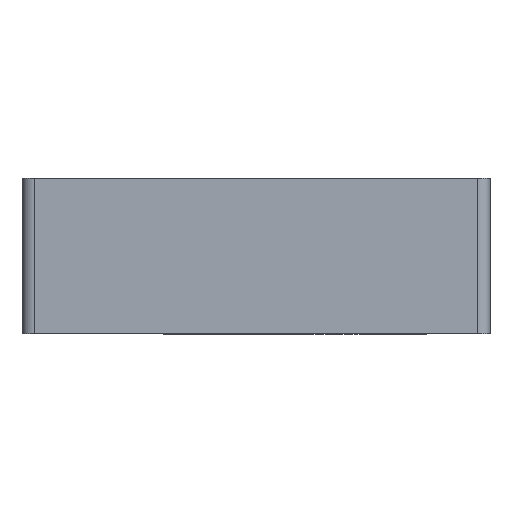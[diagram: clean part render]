
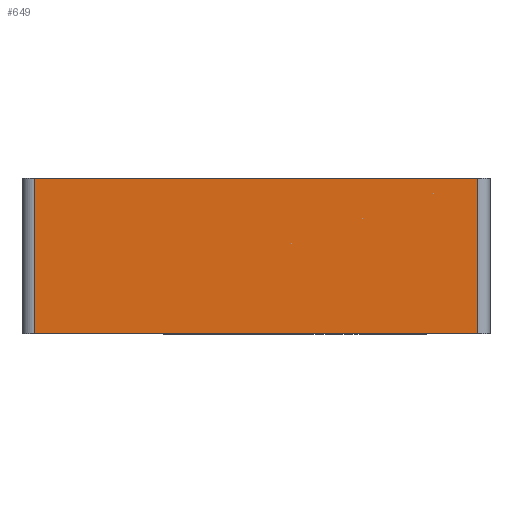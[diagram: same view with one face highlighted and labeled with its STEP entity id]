
A CAD part, front view. The second image highlights one B-rep face of the part: STEP entity #649.
In plain terms, the highlighted planar face has unit normal (0, -1, 0).
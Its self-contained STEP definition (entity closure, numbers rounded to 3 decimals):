
#18 = ORIENTED_EDGE ( 'NONE', *, *, #197, .F. ) ;
#26 = CARTESIAN_POINT ( 'NONE',  ( 20.754, -93.152, 0. ) ) ;
#41 = CARTESIAN_POINT ( 'NONE',  ( -50.246, -93.152, 25. ) ) ;
#59 = EDGE_CURVE ( 'NONE', #1032, #319, #115, .T. ) ;
#71 = DIRECTION ( 'NONE',  ( 0., 0., -1. ) ) ;
#107 = CARTESIAN_POINT ( 'NONE',  ( -50.246, -93.152, 25. ) ) ;
#108 = PLANE ( 'NONE',  #146 ) ;
#115 = LINE ( 'NONE', #929, #942 ) ;
#120 = DIRECTION ( 'NONE',  ( 1., 0., 0. ) ) ;
#124 = EDGE_CURVE ( 'NONE', #571, #319, #433, .T. ) ;
#139 = ORIENTED_EDGE ( 'NONE', *, *, #124, .F. ) ;
#146 = AXIS2_PLACEMENT_3D ( 'NONE', #41, #938, #426 ) ;
#175 = ORIENTED_EDGE ( 'NONE', *, *, #740, .T. ) ;
#187 = CARTESIAN_POINT ( 'NONE',  ( -50.246, -93.152, 0. ) ) ;
#197 = EDGE_CURVE ( 'NONE', #411, #571, #686, .T. ) ;
#295 = LINE ( 'NONE', #541, #311 ) ;
#311 = VECTOR ( 'NONE', #71, 1000. ) ;
#319 = VERTEX_POINT ( 'NONE', #26 ) ;
#340 = VECTOR ( 'NONE', #381, 1000. ) ;
#344 = DIRECTION ( 'NONE',  ( 0., 0., -1. ) ) ;
#354 = CARTESIAN_POINT ( 'NONE',  ( 20.754, -93.152, 25. ) ) ;
#381 = DIRECTION ( 'NONE',  ( 1., 0., 0. ) ) ;
#382 = EDGE_LOOP ( 'NONE', ( #488, #139, #18, #175 ) ) ;
#411 = VERTEX_POINT ( 'NONE', #107 ) ;
#426 = DIRECTION ( 'NONE',  ( 0., 0., 1. ) ) ;
#433 = LINE ( 'NONE', #354, #746 ) ;
#436 = FACE_OUTER_BOUND ( 'NONE', #382, .T. ) ;
#468 = CARTESIAN_POINT ( 'NONE',  ( -50.246, -93.152, 25. ) ) ;
#488 = ORIENTED_EDGE ( 'NONE', *, *, #59, .T. ) ;
#541 = CARTESIAN_POINT ( 'NONE',  ( -50.246, -93.152, 25. ) ) ;
#571 = VERTEX_POINT ( 'NONE', #831 ) ;
#649 = ADVANCED_FACE ( 'NONE', ( #436 ), #108, .F. ) ;
#686 = LINE ( 'NONE', #468, #340 ) ;
#740 = EDGE_CURVE ( 'NONE', #411, #1032, #295, .T. ) ;
#746 = VECTOR ( 'NONE', #344, 1000. ) ;
#831 = CARTESIAN_POINT ( 'NONE',  ( 20.754, -93.152, 25. ) ) ;
#929 = CARTESIAN_POINT ( 'NONE',  ( -50.246, -93.152, 0. ) ) ;
#938 = DIRECTION ( 'NONE',  ( 0., 1., 0. ) ) ;
#942 = VECTOR ( 'NONE', #120, 1000. ) ;
#1032 = VERTEX_POINT ( 'NONE', #187 ) ;
